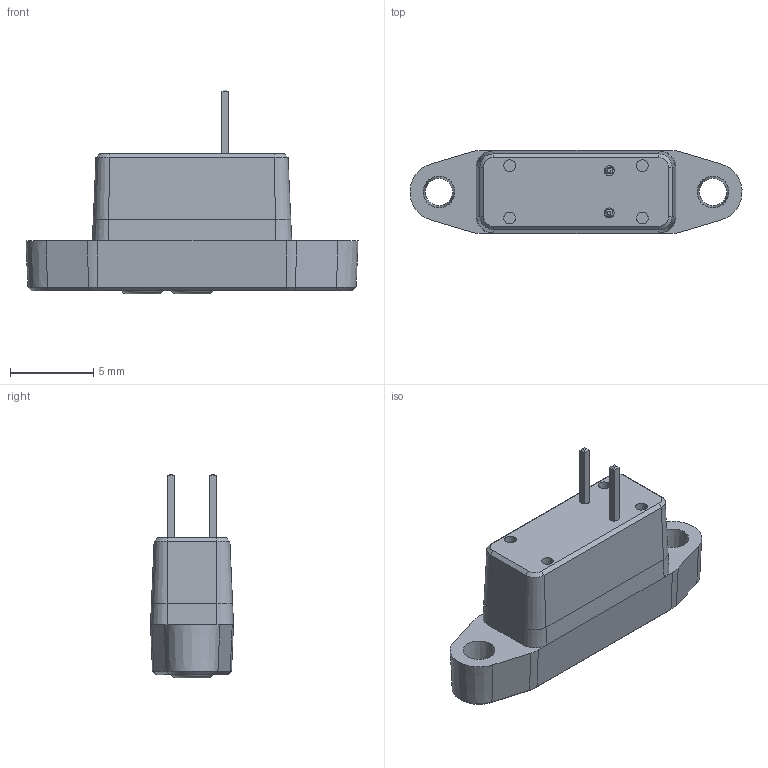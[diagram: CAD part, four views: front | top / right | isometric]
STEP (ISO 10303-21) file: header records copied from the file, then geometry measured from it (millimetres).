
FILE_DESCRIPTION(/* description */ (''),/* implementation_level */ '2;1');
FILE_NAME(/* name */ 'MVL-22-NC (classic + neg. pressure) v3.step',/* time_stamp */ '2023-12-01T14:24:17+01:00',/* author */ (''),/* organization */ (''),/* preprocessor_version */ 'ST-DEVELOPER v20',/* originating_system */ 'Autodesk Translation Framework v12.14.0.127',/* authorisation */ '');
FILE_SCHEMA (('AUTOMOTIVE_DESIGN { 1 0 10303 214 3 1 1 }'));
Length unit declared in the file: millimetre
Products named in the file (7): MVL-22-NC (classic + neg. pressure); Fluidpart; Pins; Stiftleisten v2; O-Ring; Cap; O-Ring (1)
Assembly tree (6 placements, depth 3):
  MVL-22-NC (classic + neg. pressure)
    Fluidpart
    Pins
      Stiftleisten v2
    O-Ring
    Cap
    O-Ring (1)
Bounding box: 19.99 x 5 x 12.28 mm (x, y, z)
Volume: 509.7 mm3; surface area: 740.1 mm2
Topology: 6 solids, 6 shells, 227 faces, 514 edges, 314 vertices
Faces by surface type: plane 91, cone 64, bspline 46, torus 14, cylinder 12
Entity records: 7888 total; most frequent: CARTESIAN_POINT 2772, ORIENTED_EDGE 1028, DIRECTION 990, EDGE_CURVE 514, AXIS2_PLACEMENT_3D 385, VERTEX_POINT 314, EDGE_LOOP 250, FACE_OUTER_BOUND 227
